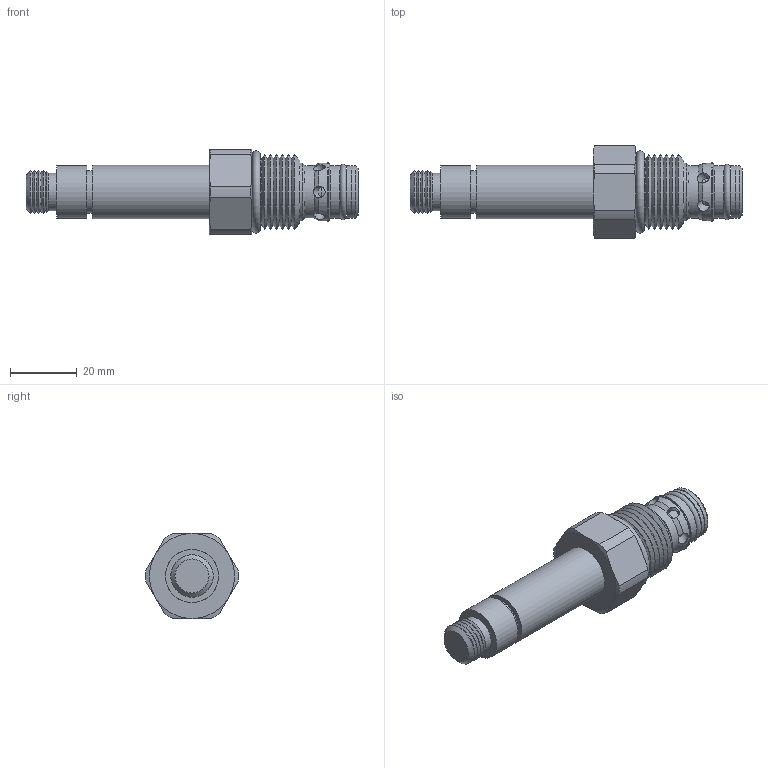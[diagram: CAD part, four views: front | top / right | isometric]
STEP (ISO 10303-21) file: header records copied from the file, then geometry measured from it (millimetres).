
FILE_DESCRIPTION(/* description */ ('HDE-S2B-00'),/* implementation_level */ '2;1');
FILE_NAME(/* name */ 'P:\EARS\EAR16xx\EAR1683 - catalog pages changes\Group1_Distribution 11_22_22\RTeck Agency_Tom\_SolidModels\HDES2B00.stp',/* time_stamp */ '2023-01-03T07:54:58-06:00',/* author */ ('Michael'),/* organization */ (''),/* preprocessor_version */ 'ST-DEVELOPER v17.2',/* originating_system */ 'Autodesk Inventor 2019',/* authorisation */ '');
FILE_SCHEMA (('AUTOMOTIVE_DESIGN { 1 0 10303 214 3 1 1 }'));
Length unit declared in the file: inch
Products named in the file (1): 81500002
Bounding box: 99.2 x 27.74 x 25.4 mm (x, y, z)
Volume: 24933.9 mm3; surface area: 9402.9 mm2
Topology: 4 solids, 4 shells, 118 faces, 270 edges, 164 vertices
Faces by surface type: cone 50, cylinder 36, plane 26, torus 6
Full cylindrical faces by diameter (mm): 0.711 x1, 2.261 x1, 3.454 x6, 4.318 x1, 5.309 x1, 6.058 x1, 7.95 x1, 9.5 x1, 10.312 x1, 11.105 x1, 11.142 x1, 11.176 x1, 12.827 x1, 12.992 x1, 13.043 x1, 15.735 x1, 15.773 x3, 15.85 x1, 15.875 x1, 17.323 x2, 17.843 x1, 19.624 x1
Entity records: 3968 total; most frequent: CARTESIAN_POINT 1121, DIRECTION 574, ORIENTED_EDGE 540, EDGE_CURVE 270, AXIS2_PLACEMENT_3D 249, VERTEX_POINT 164, EDGE_LOOP 141, CIRCLE 130
